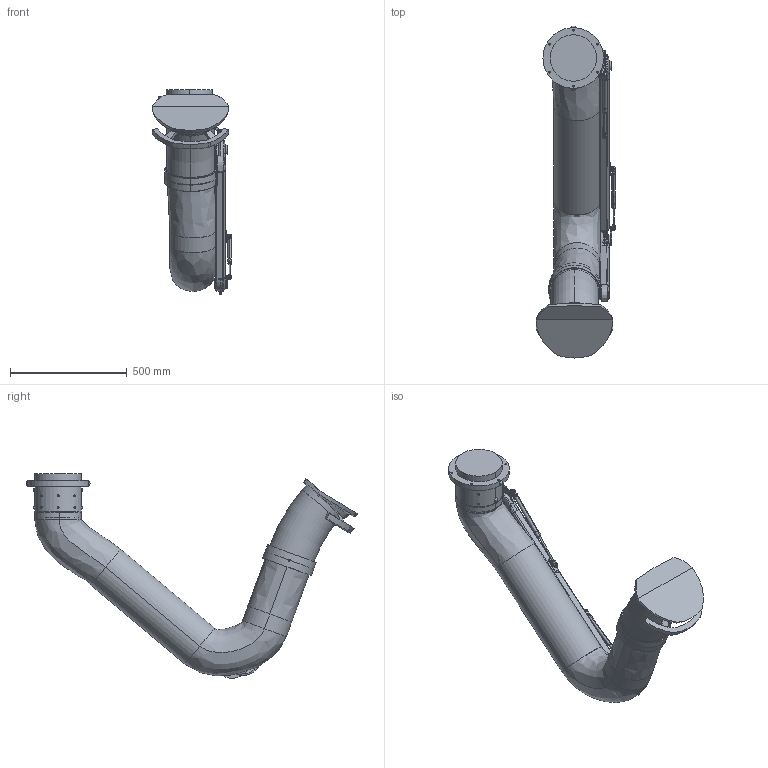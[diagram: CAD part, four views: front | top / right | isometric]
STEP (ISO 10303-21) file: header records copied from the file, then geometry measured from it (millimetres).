
FILE_DESCRIPTION((''),'2;1');
FILE_NAME('PRF-2000-200','2018-09-17T',('Gustav Stenberg'),(''),'CREO PARAMETRIC BY PTC INC, 2016130','CREO PARAMETRIC BY PTC INC, 2016130','');
FILE_SCHEMA(('AUTOMOTIVE_DESIGN { 1 0 10303 214 1 1 1 1 }'));
Length unit declared in the file: millimetre
Products named in the file (42): 102680; 100-5506_L_LIGHT; 100-5506_R_LIGHT; 100-5506; 100-5404-L_LIGHT; 100-5404-R_LIGHT; 100-5404; 100-5914; 100-5913; 100-5915; 122223; 102678; 100-5512-L_LIGHT; 100-512-R_LIGHT; 100-5512; 122220; 102715; 100-5911; 100-5518; 134111; LIGHT_SWIVEL_200_AF0; 126195; 127878; 136836; 136842; 137472; 100-5721_LIGHT; 100-5824B_LIGHT; 100-5862A_LIGHT; 100-5865A_LIGHT; 126057_AF1; 100-6341-200; PRF_HOSE_2000-200; 135584; STAB_K4-D4; 130368; 102118-REF; 135588; 130371; GAS_SPRING_ROD_STABILUS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
Assembly tree (45 placements, depth 5):
  PRF-2000-200
    134111
      122223
        102680
        100-5506
          100-5506_L_LIGHT
          100-5506_R_LIGHT
        100-5404
          100-5404-L_LIGHT
          100-5404-R_LIGHT
        100-5915  x2
          100-5914
          100-5913
      122220
        102678
        100-5512
          100-5512-L_LIGHT
          100-512-R_LIGHT
      100-5518
        102715
        100-5911
    137472
      126195
        LIGHT_SWIVEL_200_AF0
      136842
        127878
        100-5911
        136836
    100-5721_LIGHT
    100-6341-200
      100-5824B_LIGHT
      100-5862A_LIGHT
      100-5865A_LIGHT
      126057_AF1
    PRF_HOSE_2000-200
    130368
      135584
      STAB_K4-D4
    102118-REF
    130371
      135588
      STAB_K4-D4
    102845-REF
      GAS_SPRING_ROD_STABILUS
      STAB_K4-D4
Bounding box: 341.16 x 1422.63 x 877.03 mm (x, y, z)
Volume: 14088536.4 mm3; surface area: 3431504.4 mm2
Topology: 32 solids, 33 shells, 950 faces, 2298 edges, 1426 vertices
Faces by surface type: cylinder 344, plane 303, cone 115, bspline 81, torus 77, sphere 26, extrusion 4
Entity records: 44789 total; most frequent: CARTESIAN_POINT 11497, DIRECTION 4275, ORIENTED_EDGE 4054, EDGE_CURVE 2027, AXIS2_PLACEMENT_3D 1723, PROPERTY_DEFINITION 1608, REPRESENTATION 1582, PROPERTY_DEFINITION_REPRESENTATION 1582
